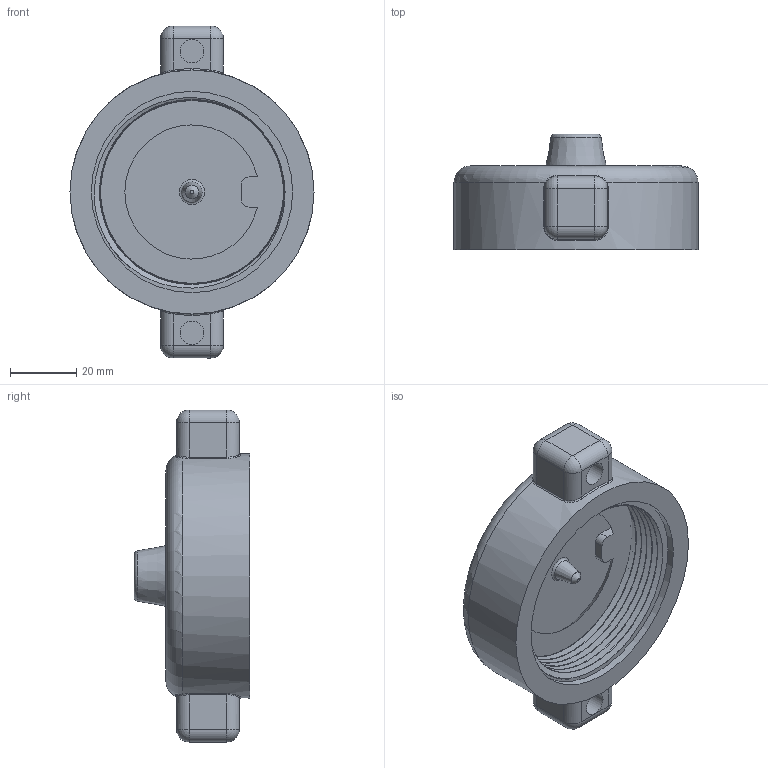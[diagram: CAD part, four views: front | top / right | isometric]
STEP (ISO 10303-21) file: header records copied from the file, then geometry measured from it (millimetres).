
FILE_DESCRIPTION(/* description */ ('Alibre Inc.'),/* implementation_level */ '2;1');
FILE_NAME(/* name */ 'export0',/* time_stamp */ '2017-02-12T12:02:52-05:00',/* author */ (''),/* organization */ (''),/* preprocessor_version */ 'ST-DEVELOPER v14',/* originating_system */ 'Alibre',/* authorisation */ '');
FILE_SCHEMA (('CONFIG_CONTROL_DESIGN'));
Length unit declared in the file: centimetre
Products named in the file (3): ID_1
Bounding box: 73.91 x 35.05 x 100.54 mm (x, y, z)
Volume: 73992.6 mm3; surface area: 26246 mm2
Topology: 2 solids, 2 shells, 157 faces, 430 edges, 276 vertices
Faces by surface type: cylinder 72, plane 30, cone 23, bspline 17, sphere 8, torus 7
Full cylindrical faces by diameter (mm): 7.112 x2, 57.15 x1, 60.96 x1, 73.914 x1
Entity records: 24824 total; most frequent: CARTESIAN_POINT 21048, ORIENTED_EDGE 816, DIRECTION 616, EDGE_CURVE 408, VERTEX_POINT 273, AXIS2_PLACEMENT_3D 265, EDGE_LOOP 177, FACE_BOUND 177
